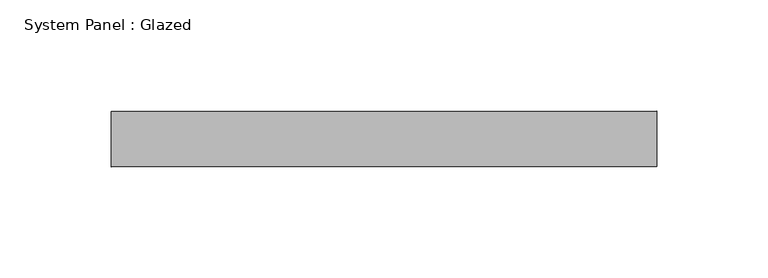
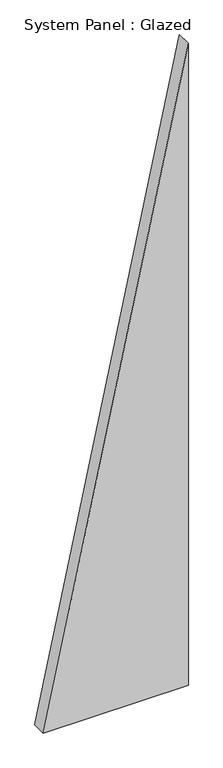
"""IFC4 building model written with IfcOpenShell, lengths in millimetres: plate geometry, System Panel : Glazed."""

from ifc_helpers import new_model, si_unit, frame, origin, place, context, project, spatial, polyline, outline, extrude, source, transform, mapped, element, save


def system_panel_glazed_dfe15f06(model_context):
    return source(origin(), model_context, "Body", "SweptSolid", [
        extrude(outline(polyline([(0.0, -122.7037836), (0.0, 122.7037836), (1147.6176423, 122.7037836), (0.0, -122.7037836)])), frame((0.0, -49.5, 0.0), z_axis=(0.0, 1.0, 0.0), x_axis=(0.0, 0.0, 1.0)), (0.0, 0.0, 1.0), 25.0),
    ])


if __name__ == "__main__":
    model = new_model("IFC4")
    model_context = context("Model", 3, world=origin())
    ifc_project = project(units=[si_unit("LENGTHUNIT", "METRE", prefix="MILLI")], contexts=[model_context])
    site = spatial("IfcSite", under=ifc_project)
    building = spatial("IfcBuilding", under=site)
    placement = place(None, origin())
    system_panel_glazed_shape = system_panel_glazed_dfe15f06(model_context)
    element("IfcPlate", 1, ObjectType="System Panel : Glazed", at=placement, inside=building, context=model_context, shape_type="MappedRepresentation", body=[
        mapped(system_panel_glazed_shape, transform((0.0, 0.0, 0.0), x_axis=(1.0, 0.0, 0.0), y_axis=(0.0, 1.0, 0.0), z_axis=(0.0, 0.0, 1.0))),
    ])
    save(model, "model.ifc")
